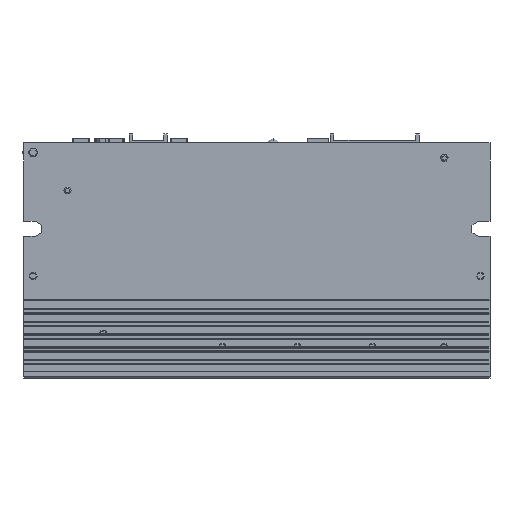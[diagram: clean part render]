
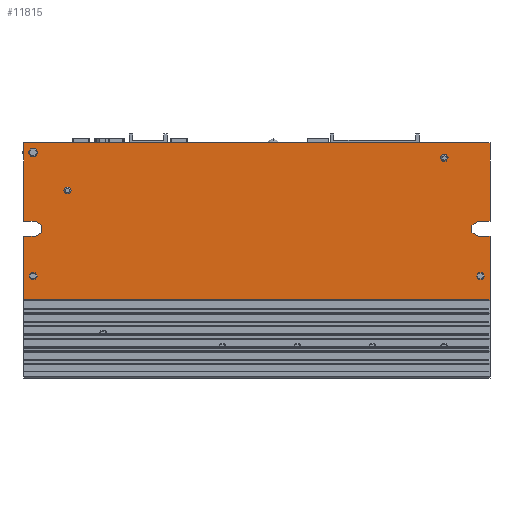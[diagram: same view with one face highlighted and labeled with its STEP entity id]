
A CAD part, front view. The second image highlights one B-rep face of the part: STEP entity #11815.
In plain terms, the highlighted planar face has unit normal (0, -1, 0).
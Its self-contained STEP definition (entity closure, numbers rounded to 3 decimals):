
#2727=CARTESIAN_POINT('',(59.,7.3,18.3));
#2728=DIRECTION('',(0.,-1.,0.));
#2729=DIRECTION('',(1.,0.,0.));
#2730=AXIS2_PLACEMENT_3D('',#2727,#2728,#2729);
#2735=CARTESIAN_POINT('',(59.,7.3,18.3));
#2736=DIRECTION('',(0.,-1.,0.));
#2737=DIRECTION('',(-1.,0.,0.));
#2738=AXIS2_PLACEMENT_3D('',#2735,#2736,#2737);
#2743=CARTESIAN_POINT('',(-59.6,7.3,8.));
#2744=DIRECTION('',(0.,-1.,0.));
#2745=DIRECTION('',(1.,0.,0.));
#2746=AXIS2_PLACEMENT_3D('',#2743,#2744,#2745);
#2751=CARTESIAN_POINT('',(-59.6,7.3,8.));
#2752=DIRECTION('',(0.,-1.,0.));
#2753=DIRECTION('',(-1.,0.,0.));
#2754=AXIS2_PLACEMENT_3D('',#2751,#2752,#2753);
#2759=CARTESIAN_POINT('',(-70.4,7.3,20.));
#2760=DIRECTION('',(0.,-1.,0.));
#2761=DIRECTION('',(1.,0.,0.));
#2762=AXIS2_PLACEMENT_3D('',#2759,#2760,#2761);
#2767=CARTESIAN_POINT('',(-70.4,7.3,20.));
#2768=DIRECTION('',(0.,-1.,0.));
#2769=DIRECTION('',(-1.,0.,0.));
#2770=AXIS2_PLACEMENT_3D('',#2767,#2768,#2769);
#2775=CARTESIAN_POINT('',(-69.75,7.3,-4.05));
#2776=DIRECTION('',(0.,1.,0.));
#2777=DIRECTION('',(0.,0.,1.));
#2778=AXIS2_PLACEMENT_3D('',#2775,#2776,#2777);
#2783=DIRECTION('',(1.,0.,0.));
#2784=VECTOR('',#2783,3.65);
#2785=CARTESIAN_POINT('',(-73.4,7.3,-1.7));
#2786=LINE('',#2785,#2784);
#2790=DIRECTION('',(0.,0.,1.));
#2791=VECTOR('',#2790,24.7);
#2792=CARTESIAN_POINT('',(-73.4,7.3,-1.7));
#2793=LINE('',#2792,#2791);
#2797=DIRECTION('',(-1.,0.,0.));
#2798=VECTOR('',#2797,146.8);
#2799=CARTESIAN_POINT('',(73.4,7.3,23.));
#2800=LINE('',#2799,#2798);
#2804=DIRECTION('',(0.,0.,-1.));
#2805=VECTOR('',#2804,24.7);
#2806=CARTESIAN_POINT('',(73.4,7.3,23.));
#2807=LINE('',#2806,#2805);
#2811=DIRECTION('',(-1.,0.,0.));
#2812=VECTOR('',#2811,3.65);
#2813=CARTESIAN_POINT('',(73.4,7.3,-1.7));
#2814=LINE('',#2813,#2812);
#2818=CARTESIAN_POINT('',(69.75,7.3,-4.05));
#2819=DIRECTION('',(0.,1.,0.));
#2820=DIRECTION('',(0.,0.,-1.));
#2821=AXIS2_PLACEMENT_3D('',#2818,#2819,#2820);
#2826=DIRECTION('',(-1.,0.,0.));
#2827=VECTOR('',#2826,3.65);
#2828=CARTESIAN_POINT('',(73.4,7.3,-6.4));
#2829=LINE('',#2828,#2827);
#2833=DIRECTION('',(0.,0.,-1.));
#2834=VECTOR('',#2833,19.9);
#2835=CARTESIAN_POINT('',(73.4,7.3,-6.4));
#2836=LINE('',#2835,#2834);
#2840=DIRECTION('',(1.,0.,0.));
#2841=VECTOR('',#2840,146.8);
#2842=CARTESIAN_POINT('',(-73.4,7.3,-26.3));
#2843=LINE('',#2842,#2841);
#2847=DIRECTION('',(0.,0.,1.));
#2848=VECTOR('',#2847,19.9);
#2849=CARTESIAN_POINT('',(-73.4,7.3,-26.3));
#2850=LINE('',#2849,#2848);
#2854=DIRECTION('',(1.,0.,0.));
#2855=VECTOR('',#2854,3.65);
#2856=CARTESIAN_POINT('',(-73.4,7.3,-6.4));
#2857=LINE('',#2856,#2855);
#2861=CARTESIAN_POINT('',(-70.4,7.3,-18.9));
#2862=DIRECTION('',(0.,1.,0.));
#2863=DIRECTION('',(1.,0.,0.));
#2864=AXIS2_PLACEMENT_3D('',#2861,#2862,#2863);
#2869=CARTESIAN_POINT('',(-70.4,7.3,-18.9));
#2870=DIRECTION('',(0.,1.,0.));
#2871=DIRECTION('',(-1.,0.,0.));
#2872=AXIS2_PLACEMENT_3D('',#2869,#2870,#2871);
#2877=CARTESIAN_POINT('',(70.4,7.3,-18.9));
#2878=DIRECTION('',(0.,1.,0.));
#2879=DIRECTION('',(1.,0.,0.));
#2880=AXIS2_PLACEMENT_3D('',#2877,#2878,#2879);
#2885=CARTESIAN_POINT('',(70.4,7.3,-18.9));
#2886=DIRECTION('',(0.,1.,0.));
#2887=DIRECTION('',(-1.,0.,0.));
#2888=AXIS2_PLACEMENT_3D('',#2885,#2886,#2887);
#9488=CARTESIAN_POINT('',(-73.4,7.3,-26.3));
#9489=VERTEX_POINT('',#9488);
#9494=CARTESIAN_POINT('',(73.4,7.3,-26.3));
#9495=VERTEX_POINT('',#9494);
#10636=CARTESIAN_POINT('',(73.4,7.3,23.));
#10637=CARTESIAN_POINT('',(-73.4,7.3,23.));
#10638=VERTEX_POINT('',#10636);
#10639=VERTEX_POINT('',#10637);
#10704=CARTESIAN_POINT('',(-69.75,7.3,-1.7));
#10705=CARTESIAN_POINT('',(-69.75,7.3,-6.4));
#10706=VERTEX_POINT('',#10704);
#10707=VERTEX_POINT('',#10705);
#10708=CARTESIAN_POINT('',(-73.4,7.3,-6.4));
#10709=VERTEX_POINT('',#10708);
#10710=CARTESIAN_POINT('',(-73.4,7.3,-1.7));
#10711=VERTEX_POINT('',#10710);
#10712=CARTESIAN_POINT('',(73.4,7.3,-6.4));
#10713=CARTESIAN_POINT('',(69.75,7.3,-6.4));
#10714=VERTEX_POINT('',#10712);
#10715=VERTEX_POINT('',#10713);
#10716=CARTESIAN_POINT('',(69.75,7.3,-1.7));
#10717=VERTEX_POINT('',#10716);
#10718=CARTESIAN_POINT('',(73.4,7.3,-1.7));
#10719=VERTEX_POINT('',#10718);
#10720=CARTESIAN_POINT('',(-68.9,7.3,20.));
#10721=CARTESIAN_POINT('',(-71.9,7.3,20.));
#10722=VERTEX_POINT('',#10720);
#10723=VERTEX_POINT('',#10721);
#10796=CARTESIAN_POINT('',(-69.15,7.3,-18.9));
#10797=CARTESIAN_POINT('',(-71.65,7.3,-18.9));
#10798=VERTEX_POINT('',#10796);
#10799=VERTEX_POINT('',#10797);
#10804=CARTESIAN_POINT('',(71.65,7.3,-18.9));
#10805=CARTESIAN_POINT('',(69.15,7.3,-18.9));
#10806=VERTEX_POINT('',#10804);
#10807=VERTEX_POINT('',#10805);
#10812=CARTESIAN_POINT('',(60.25,7.3,18.3));
#10813=CARTESIAN_POINT('',(57.75,7.3,18.3));
#10814=VERTEX_POINT('',#10812);
#10815=VERTEX_POINT('',#10813);
#10820=CARTESIAN_POINT('',(-58.35,7.3,8.));
#10821=CARTESIAN_POINT('',(-60.85,7.3,8.));
#10822=VERTEX_POINT('',#10820);
#10823=VERTEX_POINT('',#10821);
#11758=CARTESIAN_POINT('',(73.4,7.3,-25.5));
#11759=DIRECTION('',(0.,-1.,0.));
#11760=DIRECTION('',(0.,0.,-1.));
#11761=AXIS2_PLACEMENT_3D('',#11758,#11759,#11760);
#11762=PLANE('',#11761);
#11764=ORIENTED_EDGE('',*,*,#11763,.F.);
#11766=ORIENTED_EDGE('',*,*,#11765,.F.);
#11767=ORIENTED_EDGE('',*,*,#10885,.T.);
#11769=ORIENTED_EDGE('',*,*,#11768,.F.);
#11771=ORIENTED_EDGE('',*,*,#11770,.T.);
#11773=ORIENTED_EDGE('',*,*,#11772,.T.);
#11775=ORIENTED_EDGE('',*,*,#11774,.F.);
#11777=ORIENTED_EDGE('',*,*,#11776,.F.);
#11779=ORIENTED_EDGE('',*,*,#11778,.T.);
#11781=ORIENTED_EDGE('',*,*,#11780,.F.);
#11782=ORIENTED_EDGE('',*,*,#10907,.T.);
#11784=ORIENTED_EDGE('',*,*,#11783,.T.);
#11785=EDGE_LOOP('',(#11764,#11766,#11767,#11769,#11771,#11773,#11775,#11777,
#11779,#11781,#11782,#11784));
#11786=FACE_OUTER_BOUND('',#11785,.F.);
#11788=ORIENTED_EDGE('',*,*,#11787,.T.);
#11790=ORIENTED_EDGE('',*,*,#11789,.T.);
#11791=EDGE_LOOP('',(#11788,#11790));
#11792=FACE_BOUND('',#11791,.F.);
#11794=ORIENTED_EDGE('',*,*,#11793,.T.);
#11796=ORIENTED_EDGE('',*,*,#11795,.T.);
#11797=EDGE_LOOP('',(#11794,#11796));
#11798=FACE_BOUND('',#11797,.F.);
#11799=ORIENTED_EDGE('',*,*,#11738,.T.);
#11800=ORIENTED_EDGE('',*,*,#11752,.T.);
#11801=EDGE_LOOP('',(#11799,#11800));
#11802=FACE_BOUND('',#11801,.F.);
#11804=ORIENTED_EDGE('',*,*,#11803,.F.);
#11806=ORIENTED_EDGE('',*,*,#11805,.F.);
#11807=EDGE_LOOP('',(#11804,#11806));
#11808=FACE_BOUND('',#11807,.F.);
#11810=ORIENTED_EDGE('',*,*,#11809,.F.);
#11812=ORIENTED_EDGE('',*,*,#11811,.F.);
#11813=EDGE_LOOP('',(#11810,#11812));
#11814=FACE_BOUND('',#11813,.F.);
#11815=ADVANCED_FACE('',(#11786,#11792,#11798,#11802,#11808,#11814),#11762,.T.);
#2731=CIRCLE('',#2730,1.25);
#2739=CIRCLE('',#2738,1.25);
#2747=CIRCLE('',#2746,1.25);
#2755=CIRCLE('',#2754,1.25);
#2763=CIRCLE('',#2762,1.5);
#2771=CIRCLE('',#2770,1.5);
#2779=CIRCLE('',#2778,2.35);
#2822=CIRCLE('',#2821,2.35);
#2865=CIRCLE('',#2864,1.25);
#2873=CIRCLE('',#2872,1.25);
#2881=CIRCLE('',#2880,1.25);
#2889=CIRCLE('',#2888,1.25);
#10885=EDGE_CURVE('',#10711,#10639,#2793,.T.);
#10907=EDGE_CURVE('',#9489,#10709,#2850,.T.);
#11738=EDGE_CURVE('',#10722,#10723,#2763,.T.);
#11752=EDGE_CURVE('',#10723,#10722,#2771,.T.);
#11763=EDGE_CURVE('',#10706,#10707,#2779,.T.);
#11765=EDGE_CURVE('',#10711,#10706,#2786,.T.);
#11768=EDGE_CURVE('',#10638,#10639,#2800,.T.);
#11770=EDGE_CURVE('',#10638,#10719,#2807,.T.);
#11772=EDGE_CURVE('',#10719,#10717,#2814,.T.);
#11774=EDGE_CURVE('',#10715,#10717,#2822,.T.);
#11776=EDGE_CURVE('',#10714,#10715,#2829,.T.);
#11778=EDGE_CURVE('',#10714,#9495,#2836,.T.);
#11780=EDGE_CURVE('',#9489,#9495,#2843,.T.);
#11783=EDGE_CURVE('',#10709,#10707,#2857,.T.);
#11787=EDGE_CURVE('',#10814,#10815,#2731,.T.);
#11789=EDGE_CURVE('',#10815,#10814,#2739,.T.);
#11793=EDGE_CURVE('',#10822,#10823,#2747,.T.);
#11795=EDGE_CURVE('',#10823,#10822,#2755,.T.);
#11803=EDGE_CURVE('',#10798,#10799,#2865,.T.);
#11805=EDGE_CURVE('',#10799,#10798,#2873,.T.);
#11809=EDGE_CURVE('',#10806,#10807,#2881,.T.);
#11811=EDGE_CURVE('',#10807,#10806,#2889,.T.);
